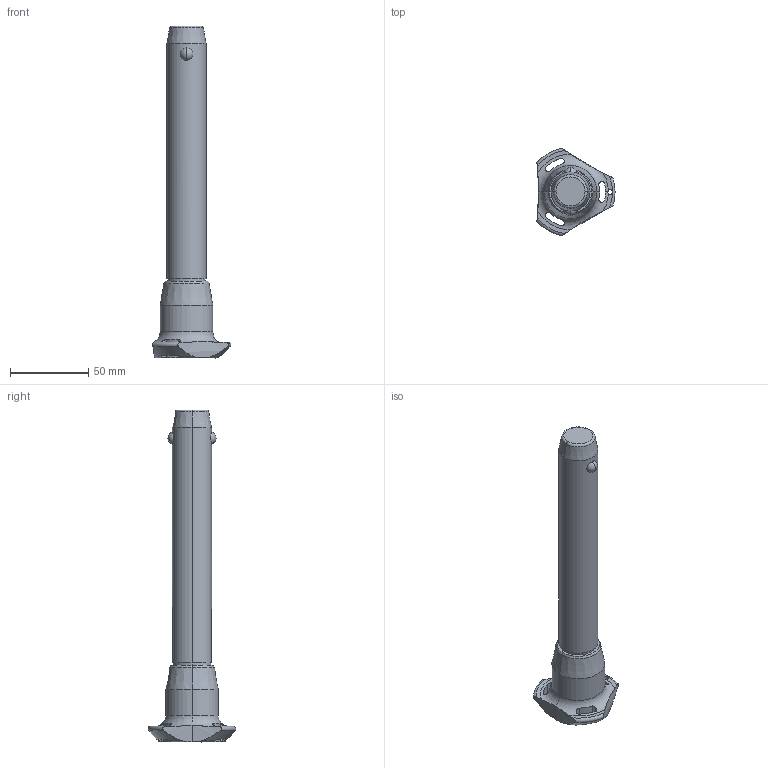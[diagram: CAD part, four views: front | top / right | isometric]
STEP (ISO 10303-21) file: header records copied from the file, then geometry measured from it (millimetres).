
FILE_DESCRIPTION (( 'STEP AP203' ), '1' );
FILE_NAME ('QR1704.M25-140-S.step', '2025-11-12T09:41:20', ( '' ), ( '' ), 'SwSTEP 2.0', 'SolidWorks 2019', '' );
FILE_SCHEMA (( 'CONFIG_CONTROL_DESIGN' ));
Length unit declared in the file: millimetre
Products named in the file (1): QR1704.M25-140-S
Bounding box: 50.05 x 56.02 x 212.7 mm (x, y, z)
Volume: 127175.9 mm3; surface area: 22444.8 mm2
Topology: 1 solids, 1 shells, 65 faces, 176 edges, 111 vertices
Faces by surface type: cylinder 30, cone 14, torus 11, sphere 6, plane 4
Entity records: 2858 total; most frequent: CARTESIAN_POINT 1179, ORIENTED_EDGE 352, DIRECTION 329, EDGE_CURVE 176, AXIS2_PLACEMENT_3D 147, VERTEX_POINT 111, CIRCLE 81, EDGE_LOOP 71
